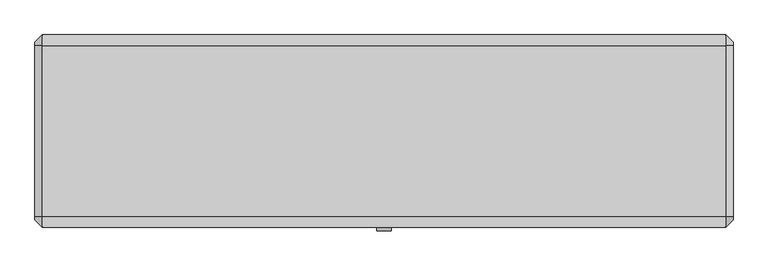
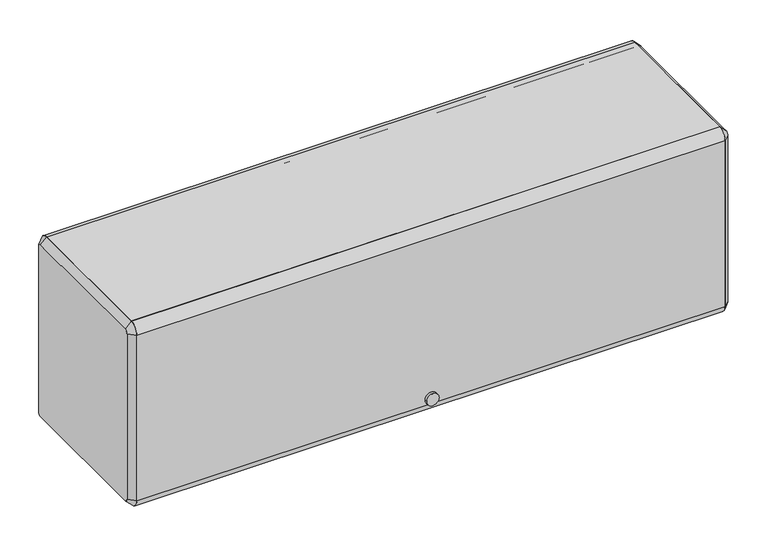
"""IFC4 building model written with IfcOpenShell, lengths in millimetres: furniture geometry."""

from ifc_helpers import new_model, si_unit, point, frame, frame_2d, origin, place, context, project, spatial, polyline, circle_curve, trimmed, segment, composite_curve, outline, extrude, source, transform, mapped, element, save
from ifc_brep_helpers import plane_surface, revolved_surface, advanced_brep


def furniture_4dcc41e3(model_context):
    return source(origin(), model_context, "Body", "SolidModel", [
        extrude(outline(composite_curve([segment(polyline([(-136.525, 2019.3), (-136.525, 2032.0), (161.925, 2032.0)]), True, "CONTINUOUS"), segment(trimmed(circle_curve(frame_2d((161.925, 2012.95)), 19.05), [point((161.925, 2032.0))], [point((180.975, 2012.95))], False, "CARTESIAN"), True, "CONTINUOUS"), segment(polyline([(180.975, 2012.95), (168.275, 2012.95)]), True, "CONTINUOUS"), segment(trimmed(circle_curve(frame_2d((161.925, 2012.95)), 6.35), [point((168.275, 2012.95))], [point((161.925, 2019.3))], True, "CARTESIAN"), True, "CONTINUOUS"), segment(polyline([(161.925, 2019.3), (-136.525, 2019.3)]), True, "CONTINUOUS")], self_intersect=False)), frame((-596.9, 0.0, 0.0), z_axis=(1.0, 0.0, 0.0), x_axis=(0.0, 1.0, 0.0)), (0.0, 0.0, 1.0), 1193.8),
        extrude(outline(composite_curve([segment(trimmed(circle_curve(frame_2d((-136.525, 2012.95)), 19.05), [point((-155.575, 2012.95))], [point((-136.525, 2032.0))], False, "CARTESIAN"), True, "CONTINUOUS"), segment(polyline([(-136.525, 2032.0), (-136.525, 2019.3)]), True, "CONTINUOUS"), segment(trimmed(circle_curve(frame_2d((-136.525, 2012.95)), 6.35), [point((-136.525, 2019.3))], [point((-142.875, 2012.95))], True, "CARTESIAN"), True, "CONTINUOUS"), segment(polyline([(-142.875, 2012.95), (-142.875, 1657.35)]), True, "CONTINUOUS"), segment(trimmed(circle_curve(frame_2d((-136.525, 1657.35)), 6.35), [point((-142.875, 1657.35))], [point((-136.525, 1651.0))], True, "CARTESIAN"), True, "CONTINUOUS"), segment(polyline([(-136.525, 1651.0), (-136.525, 1638.3)]), True, "CONTINUOUS"), segment(trimmed(circle_curve(frame_2d((-136.525, 1657.35)), 19.05), [point((-136.525, 1638.3))], [point((-155.575, 1657.35))], False, "CARTESIAN"), True, "CONTINUOUS"), segment(polyline([(-155.575, 1657.35), (-155.575, 2012.95)]), True, "CONTINUOUS")], self_intersect=False)), frame((-596.9, 0.0, 0.0), z_axis=(1.0, 0.0, 0.0), x_axis=(0.0, 1.0, 0.0)), (0.0, 0.0, 1.0), 1193.8),
        extrude(outline(composite_curve([segment(trimmed(circle_curve(frame_2d((1670.0118906, 0.0201199)), 12.7253951), [point((1670.0118906, 12.745515))], [point((1670.0118906, -12.7052752))], False, "CARTESIAN"), True, "CONTINUOUS"), segment(trimmed(circle_curve(frame_2d((1670.0118906, 0.0201199)), 12.7253951), [point((1670.0118906, -12.7052752))], [point((1670.0118906, 12.745515))], False, "CARTESIAN"), True, "CONTINUOUS")], self_intersect=False)), frame((0.0, -161.925, 0.0), z_axis=(0.0, 1.0, 0.0), x_axis=(0.0, 0.0, 1.0)), (0.0, 0.0, 1.0), 6.35),
        extrude(outline(polyline([(-136.525, 1676.4), (161.925, 1676.4), (161.925, 1714.5), (174.625, 1714.5), (174.625, 1711.325), (165.1, 1711.325), (165.1, 1673.225), (-133.35, 1673.225), (-133.35, 1654.175), (-136.525, 1654.175), (-136.525, 1676.4)])), frame((-596.9, 0.0, 0.0), z_axis=(1.0, 0.0, 0.0), x_axis=(0.0, 1.0, 0.0)), (0.0, 0.0, 1.0), 1193.8),
        advanced_brep(
        [(609.6, 161.925, 2019.3), (609.6, -136.525, 2019.3), (609.6, -142.875, 2012.95), (609.6, -142.875, 1657.35), (609.6, -136.525, 1651.0), (609.6, 161.925, 1651.0), (609.6, 168.275, 1657.35), (609.6, 168.275, 2012.95), (596.9, 161.925, 2032.0), (596.9, 180.975, 2012.95), (596.9, 180.975, 1657.35), (596.9, 161.925, 1638.3), (596.9, -136.525, 1638.3), (596.9, -155.575, 1657.35), (596.9, -155.575, 2012.95), (596.9, -136.525, 2032.0)],
        [
            (0, 1),
            (1, 2, circle_curve(frame((609.6, -136.525, 2012.95), z_axis=(1.0, 6.490807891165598e-12, -6.586731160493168e-12), x_axis=(6.586694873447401e-12, 0.0, 1.0)), 6.35)),
            (2, 3),
            (3, 4, circle_curve(frame((609.6, -136.525, 1657.35), z_axis=(1.0, 3.37330163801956e-12, 3.3892888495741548e-12), x_axis=(3.373343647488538e-12, -1.0, 0.0)), 6.35)),
            (4, 5),
            (5, 6, circle_curve(frame((609.6, 161.925, 1657.35), z_axis=(1.0, 3.378630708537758e-12, -3.367972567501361e-12), x_axis=(-3.368005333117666e-12, 0.0, -1.0)), 6.35)),
            (6, 7),
            (7, 0, circle_curve(frame((609.6, 161.925, 2012.95), z_axis=(1.0, 6.4828142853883e-12, 6.3948846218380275e-12), x_axis=(-6.482754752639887e-12, 1.0, 0.0)), 6.35)),
            (8, 9, circle_curve(frame((596.9, 161.925, 2012.95), z_axis=(-1.0, -6.4828142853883e-12, -6.3948846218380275e-12), x_axis=(-6.482754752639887e-12, 1.0, 0.0)), 19.05)),
            (9, 10),
            (10, 11, circle_curve(frame((596.9, 161.925, 1657.35), z_axis=(-1.0, -3.378630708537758e-12, 3.367972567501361e-12), x_axis=(-3.368005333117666e-12, 0.0, -1.0)), 19.05)),
            (11, 12),
            (12, 13, circle_curve(frame((596.9, -136.525, 1657.35), z_axis=(-1.0, -3.37330163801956e-12, -3.3892888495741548e-12), x_axis=(3.373343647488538e-12, -1.0, 0.0)), 19.05)),
            (13, 14),
            (14, 15, circle_curve(frame((596.9, -136.525, 2012.95), z_axis=(-1.0, -6.490807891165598e-12, 6.586731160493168e-12), x_axis=(6.586694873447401e-12, 0.0, 1.0)), 19.05)),
            (15, 8),
            (15, 1),
            (0, 8),
            (14, 2),
            (13, 3),
            (12, 4),
            (11, 5),
            (10, 6),
            (9, 7),
        ],
        [
            plane_surface(frame((609.6, 12.7, 1835.15), z_axis=(1.0, 0.0, 0.0), x_axis=(0.0, -1.0, 0.0))),
            plane_surface(frame((596.9, 12.7, 1835.15), z_axis=(-1.0, 0.0, 0.0), x_axis=(0.0, -1.0, 0.0))),
            plane_surface(frame((596.9, 12.7, 2032.0), z_axis=(0.7071067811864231, 0.0, 0.7071067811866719), x_axis=(0.0, -1.0, 0.0))),
            revolved_surface(polyline([(609.6000000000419, -136.525, 2019.2999999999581), (596.9, -136.525, 2032.0)]), (615.95, -136.525, 2012.95), (-1.0, -6.490807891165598e-12, 6.586731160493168e-12)),
            plane_surface(frame((596.9, -155.575, 1835.15), z_axis=(0.7071067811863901, -0.7071067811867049, 0.0), x_axis=(0.0, 0.0, -1.0))),
            revolved_surface(polyline([(609.6000000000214, -142.87499999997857, 1657.35), (596.8999999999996, -155.5750000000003, 1657.35)]), (615.95, -136.525, 1657.35), (-1.0, -3.37330163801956e-12, -3.3892888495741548e-12)),
            plane_surface(frame((596.9, 12.7, 1638.3), z_axis=(0.7071067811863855, 0.0, -0.7071067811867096), x_axis=(0.0, 1.0, 0.0))),
            revolved_surface(polyline([(609.6000000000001, 161.925, 1651.0), (596.8999999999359, 161.925, 1638.2999999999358)]), (615.95, 161.925, 1657.35), (-1.0, -3.378630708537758e-12, 3.367972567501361e-12)),
            plane_surface(frame((596.9, 180.975, 1835.15), z_axis=(0.7071067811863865, 0.7071067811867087, 0.0), x_axis=(0.0, 0.0, 1.0))),
            revolved_surface(polyline([(609.6, 168.275, 2012.95), (596.8999999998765, 180.9750000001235, 2012.95)]), (615.95, 161.925, 2012.95), (-1.0, -6.4828142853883e-12, -6.3948846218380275e-12)),
        ],
        [
            (0, [[1, 2, 3, 4, 5, 6, 7, 8]]),
            (1, [[9, 10, 11, 12, 13, 14, 15, 16]]),
            (2, [[-16, 17, -1, 18]]),
            (3, [[-15, 19, -2, -17]]),
            (4, [[-14, 20, -3, -19]]),
            (5, [[-13, 21, -4, -20]]),
            (6, [[-12, 22, -5, -21]]),
            (7, [[-11, 23, -6, -22]]),
            (8, [[-10, 24, -7, -23]]),
            (9, [[-9, -18, -8, -24]]),
        ],
    ),
        advanced_brep(
        [(-609.6, -136.525, 2019.3), (-609.6, 161.925, 2019.3), (-609.6, 168.275, 2012.95), (-609.6, 168.275, 1657.35), (-609.6, 161.925, 1651.0), (-609.6, -136.525, 1651.0), (-609.6, -142.875, 1657.35), (-609.6, -142.875, 2012.95), (-596.9, -136.525, 2032.0), (-596.9, -155.575, 2012.95), (-596.9, -155.575, 1657.35), (-596.9, -136.525, 1638.3), (-596.9, 161.925, 1638.3), (-596.9, 180.975, 1657.35), (-596.9, 180.975, 2012.95), (-596.9, 161.925, 2032.0)],
        [
            (0, 1),
            (1, 2, circle_curve(frame((-609.6, 161.925, 2012.95), z_axis=(-1.0, 3.3626434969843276e-12, 3.4319214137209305e-12), x_axis=(3.4319080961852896e-12, 0.0, 1.0)), 6.35)),
            (2, 3),
            (3, 4, circle_curve(frame((-609.6, 161.925, 1657.35), z_axis=(-1.0, 0.0, 0.0), x_axis=(0.0, 1.0, 0.0)), 6.35)),
            (4, 5),
            (5, 6, circle_curve(frame((-609.6, -136.525, 1657.35), z_axis=(-1.0, 0.0, 0.0), x_axis=(0.0, 0.0, -1.0)), 6.35)),
            (6, 7),
            (7, 0, circle_curve(frame((-609.6, -136.525, 2012.95), z_axis=(-1.0, 3.369304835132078e-12, -3.2827074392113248e-12), x_axis=(-3.36926140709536e-12, -1.0, 0.0)), 6.35)),
            (8, 9, circle_curve(frame((-596.9, -136.525, 2012.95), z_axis=(1.0, -3.369304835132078e-12, 3.2827074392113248e-12), x_axis=(-3.36926140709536e-12, -1.0, 0.0)), 19.05)),
            (9, 10),
            (10, 11, circle_curve(frame((-596.9, -136.525, 1657.35), z_axis=(1.0, 0.0, 0.0), x_axis=(0.0, 0.0, -1.0)), 19.05)),
            (11, 12),
            (12, 13, circle_curve(frame((-596.9, 161.925, 1657.35), z_axis=(1.0, 0.0, 0.0), x_axis=(0.0, 1.0, 0.0)), 19.05)),
            (13, 14),
            (14, 15, circle_curve(frame((-596.9, 161.925, 2012.95), z_axis=(1.0, -3.3626434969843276e-12, -3.4319214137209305e-12), x_axis=(3.4319080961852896e-12, 0.0, 1.0)), 19.05)),
            (15, 8),
            (15, 1),
            (0, 8),
            (14, 2),
            (13, 3),
            (12, 4),
            (11, 5),
            (10, 6),
            (9, 7),
        ],
        [
            plane_surface(frame((-609.6, 12.7, 1835.15), z_axis=(-1.0, 0.0, 0.0), x_axis=(0.0, -1.0, 0.0))),
            plane_surface(frame((-596.9, 12.7, 1835.15), z_axis=(1.0, 0.0, 0.0), x_axis=(0.0, -1.0, 0.0))),
            plane_surface(frame((-596.9, 12.7, 2032.0), z_axis=(-0.7071067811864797, 0.0, 0.7071067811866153), x_axis=(0.0, 1.0, 0.0))),
            revolved_surface(polyline([(-609.6, 161.925, 2019.3), (-596.8999999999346, 161.925, 2032.0000000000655)]), (-615.95, 161.925, 2012.95), (1.0, -3.3626434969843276e-12, -3.4319214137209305e-12)),
            plane_surface(frame((-596.9, 180.975, 1835.15), z_axis=(-0.7071067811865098, 0.7071067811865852, 0.0), x_axis=(0.0, 0.0, -1.0))),
            revolved_surface(polyline([(-609.6, 168.275, 1657.35), (-596.9, 180.975, 1657.35)]), (-615.95, 161.925, 1657.35), (1.0, 0.0, 0.0)),
            plane_surface(frame((-596.9, 12.7, 1638.3), z_axis=(-0.7071067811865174, 0.0, -0.7071067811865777), x_axis=(0.0, -1.0, 0.0))),
            revolved_surface(polyline([(-609.6, -136.525, 1651.0), (-596.9, -136.525, 1638.3)]), (-615.95, -136.525, 1657.35), (1.0, 0.0, 0.0)),
            plane_surface(frame((-596.9, -155.575, 1835.15), z_axis=(-0.7071067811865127, -0.7071067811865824, 0.0), x_axis=(0.0, 0.0, 1.0))),
            revolved_surface(polyline([(-609.6000000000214, -142.8749999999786, 2012.95), (-596.9, -155.575, 2012.95)]), (-615.95, -136.525, 2012.95), (1.0, -3.369304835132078e-12, 3.2827074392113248e-12)),
        ],
        [
            (0, [[1, 2, 3, 4, 5, 6, 7, 8]]),
            (1, [[9, 10, 11, 12, 13, 14, 15, 16]]),
            (2, [[-16, 17, -1, 18]]),
            (3, [[-15, 19, -2, -17]]),
            (4, [[-14, 20, -3, -19]]),
            (5, [[-13, 21, -4, -20]]),
            (6, [[-12, 22, -5, -21]]),
            (7, [[-11, 23, -6, -22]]),
            (8, [[-10, 24, -7, -23]]),
            (9, [[-9, -18, -8, -24]]),
        ],
    ),
    ])


if __name__ == "__main__":
    model = new_model("IFC4")
    model_context = context("Model", 3, world=origin())
    ifc_project = project(units=[si_unit("LENGTHUNIT", "METRE", prefix="MILLI")], contexts=[model_context])
    site = spatial("IfcSite", under=ifc_project)
    building = spatial("IfcBuilding", under=site)
    placement = place(None, origin())
    furniture_shape = furniture_4dcc41e3(model_context)
    element("IfcFurniture", 1, ObjectType="HermanMiller_ActionOffice_A3352_B-StyleFlipperDoorUnit : 15 1/2\"H x 13\"D x 48\"W", at=placement, inside=building, context=model_context, shape_type="MappedRepresentation", body=[
        mapped(furniture_shape, transform((0.0, 0.0, 0.0), x_axis=(1.0, 0.0, 0.0), y_axis=(0.0, 1.0, 0.0), z_axis=(0.0, 0.0, 1.0))),
    ])
    save(model, "model.ifc")
